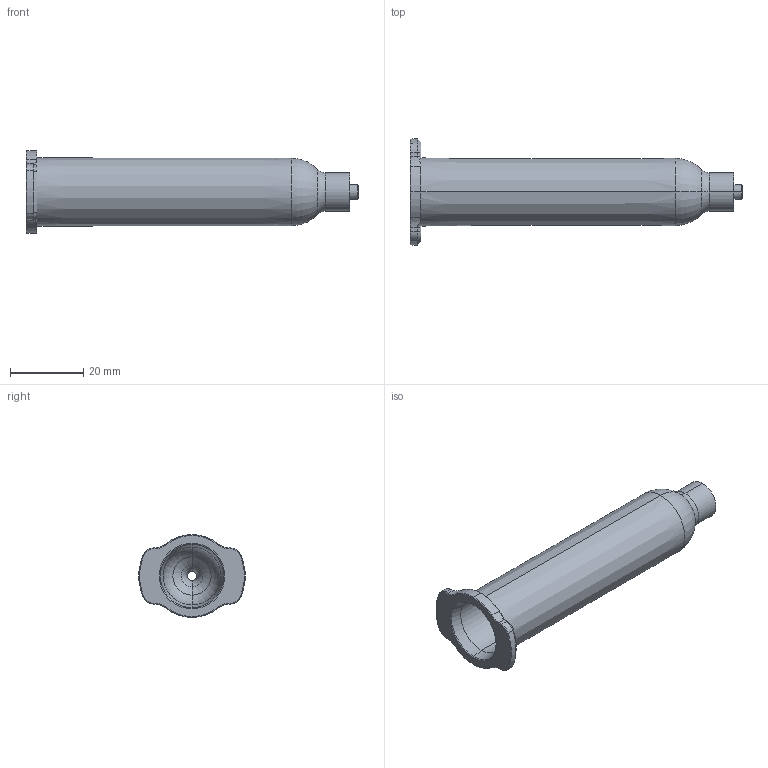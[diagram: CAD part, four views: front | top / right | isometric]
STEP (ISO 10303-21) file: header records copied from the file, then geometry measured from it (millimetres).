
FILE_DESCRIPTION (( 'STEP AP214' ), '1' );
FILE_NAME ('8001003_CUS.STEP', '2022-06-03T13:12:05', ( '' ), ( '' ), 'SwSTEP 2.0', 'SolidWorks 2020', '' );
FILE_SCHEMA (( 'AUTOMOTIVE_DESIGN' ));
Length unit declared in the file: millimetre
Products named in the file (1): 8001003_CUS
Bounding box: 90.6 x 28.97 x 22.6 mm (x, y, z)
Volume: 6958.7 mm3; surface area: 9952.9 mm2
Topology: 1 solids, 1 shells, 243 faces, 597 edges, 371 vertices
Faces by surface type: plane 72, cone 55, torus 46, bspline 36, cylinder 34
Entity records: 9394 total; most frequent: CARTESIAN_POINT 3804, ORIENTED_EDGE 1194, DIRECTION 1124, EDGE_CURVE 597, AXIS2_PLACEMENT_3D 427, VERTEX_POINT 371, LINE 270, VECTOR 270
